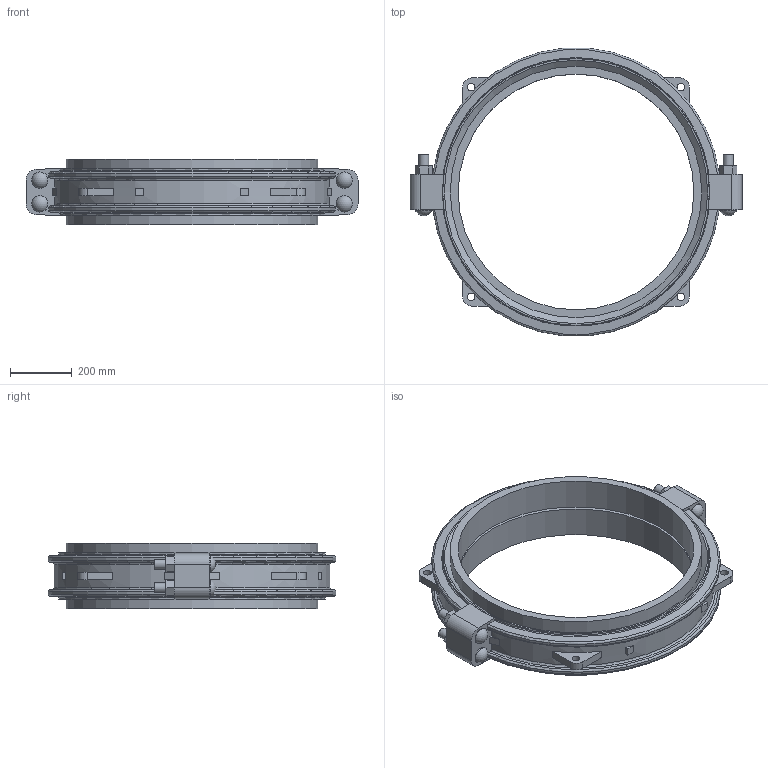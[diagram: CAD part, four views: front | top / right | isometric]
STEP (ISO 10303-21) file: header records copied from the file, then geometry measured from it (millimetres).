
FILE_DESCRIPTION(/* description */ ('VIC COUPLING FLEX STYLE W77 AGS VIC-RING ','CAx-IF Rec.Pracs.---Representation and Presentation of Product Manufacturing Information (PMI)---4.0---2014-10-13'),/* implementation_level */ '2;1');
FILE_NAME(/* name */ 'C:\Users\Vjadhav\AppData\Roaming\Autodesk\ApplicationPlugins\Victaulic.Temp\A52\Victaulic_Vic-Ring_Coupling Flexible_Style W77 (AGR)_32 (800).stp',/* time_stamp */ '2021-12-20T11:05:34+06:00',/* author */ ('Vjadhav'),/* organization */ ('Victaulic'),/* preprocessor_version */ 'ST-DEVELOPER v17.2',/* originating_system */ 'Autodesk Inventor 2019',/* authorisation */ '');
FILE_SCHEMA (('AP242_MANAGED_MODEL_BASED_3D_ENGINEERING_MIM_LF { 1 0 10303 442 1 1 4 }'));
Length unit declared in the file: inch
Products named in the file (3): W77 VR-32.0; W77 VR-32.0_1; W77 VR-32.0_2
Assembly tree (3 placements, depth 2):
  W77 VR-32.0
    W77 VR-32.0_1
    W77 VR-32.0_2  x2
Bounding box: 1073.15 x 930.07 x 211.84 mm (x, y, z)
Volume: 33821142.8 mm3; surface area: 2719280.2 mm2
Topology: 3 solids, 7 shells, 187 faces, 491 edges, 340 vertices
Faces by surface type: plane 110, cylinder 47, torus 16, cone 10, sphere 4
Full cylindrical faces by diameter (mm): 25.4 x4, 31.75 x8, 53.162 x4, 762 x2, 793.75 x1, 812.8 x4, 862.584 x2
Entity records: 6491 total; most frequent: CARTESIAN_POINT 1514, DIRECTION 987, ORIENTED_EDGE 962, EDGE_CURVE 481, AXIS2_PLACEMENT_3D 365, VERTEX_POINT 332, LINE 257, VECTOR 257
